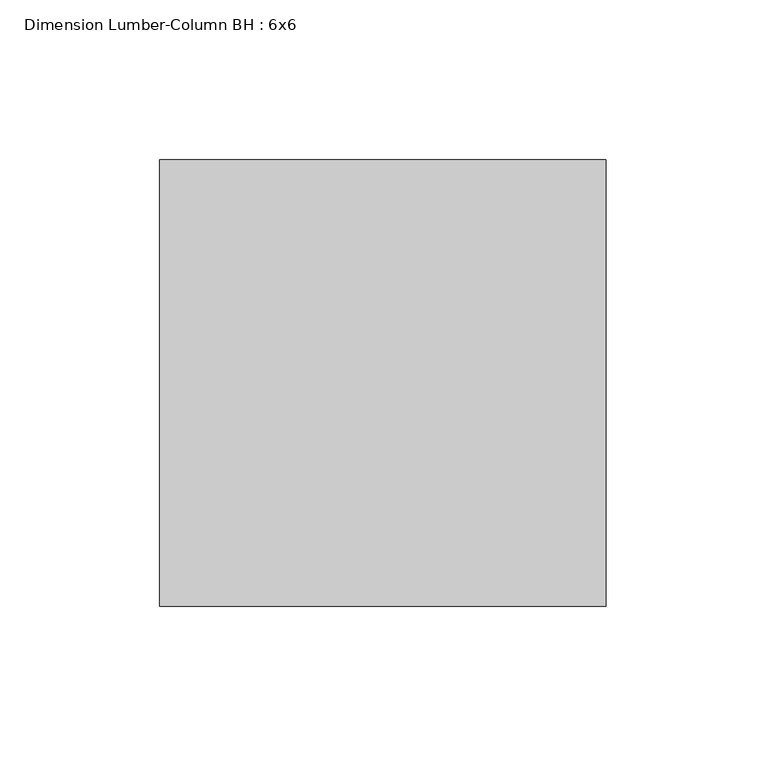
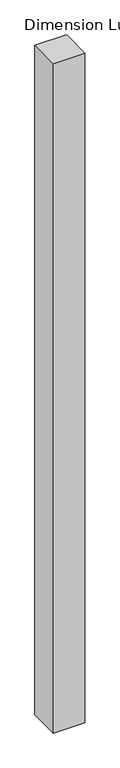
"""IFC4 building model written with IfcOpenShell, lengths in millimetres: column geometry, Dimension Lumber-Column BH : 6x6."""

from ifc_helpers import new_model, si_unit, origin, origin_with_axes, place, context, project, spatial, polyline, outline, extrude, source, transform, mapped, element, save


def dimension_lumber_column_bh_6x6_5fb5b677(model_context):
    return source(origin(), model_context, "Body", "SweptSolid", [
        extrude(outline(polyline([(69.85, 69.85), (69.85, -69.85), (-69.85, -69.85), (-69.85, 69.85), (69.85, 69.85)])), origin_with_axes(), (0.0, 0.0, 1.0), 3117.85),
    ])


if __name__ == "__main__":
    model = new_model("IFC4")
    model_context = context("Model", 3, world=origin())
    ifc_project = project(units=[si_unit("LENGTHUNIT", "METRE", prefix="MILLI")], contexts=[model_context])
    site = spatial("IfcSite", under=ifc_project)
    building = spatial("IfcBuilding", under=site)
    placement = place(None, origin())
    dimension_lumber_column_bh_6x6_shape = dimension_lumber_column_bh_6x6_5fb5b677(model_context)
    element("IfcColumn", 1, ObjectType="Dimension Lumber-Column BH : 6x6", at=placement, inside=building, context=model_context, shape_type="MappedRepresentation", body=[
        mapped(dimension_lumber_column_bh_6x6_shape, transform((0.0, 0.0, 0.0), x_axis=(1.0, 0.0, 0.0), y_axis=(0.0, 1.0, 0.0), z_axis=(0.0, 0.0, 1.0))),
    ])
    save(model, "model.ifc")
